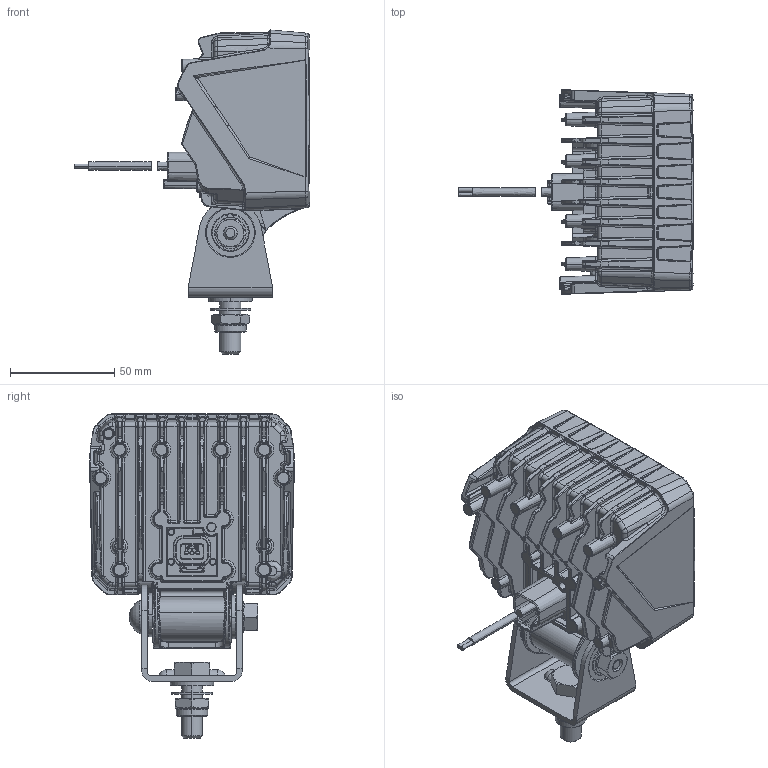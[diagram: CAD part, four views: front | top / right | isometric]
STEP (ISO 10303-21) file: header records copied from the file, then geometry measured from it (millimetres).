
FILE_DESCRIPTION(('CATIA V5 STEP Exchange','CAx-IF Rec.Pracs.--- Model Styling and Organization---1.5--- 2016-08-15','CAx-IF Rec.Pracs.---Supplemental Geometry---1.0---2011-11-01','CAx-IF Rec.Pracs.--- Composite Materials ---1.1---2010-07-15'),'2;1');
FILE_NAME('E:\tmp\ddx\2015442\HELLA_3D_data_ECO18 LED_reverse_lamp_2ZR-996-479-50.stp','2022-01-28T11:57:18+00:00',('none'),('none'),'CATIA Version 5-6 Release 2020 SP3 HF9','CATIA V5 STEP AP214 Edition 3 v2','none');
FILE_SCHEMA(('AUTOMOTIVE_DESIGN { 1 0 10303 214 3 1 1 1 }'));
Products named in the file (1): 10002533217_D10_001
Bounding box: 113.01 x 98.08 x 155.35 mm (x, y, z)
Volume: 419086.3 mm3; surface area: 82342 mm2
Topology: 7 solids, 9 shells, 3989 faces, 10625 edges, 6581 vertices
Faces by surface type: bspline 1436, plane 1304, cylinder 809, extrusion 179, cone 176, sphere 43, torus 42
Entity records: 195007 total; most frequent: CARTESIAN_POINT 115291, ORIENTED_EDGE 21014, EDGE_CURVE 10507, DIRECTION 8947, VERTEX_POINT 6580, B_SPLINE_CURVE_WITH_KNOTS 5467, EDGE_LOOP 4080, ADVANCED_FACE 3988
